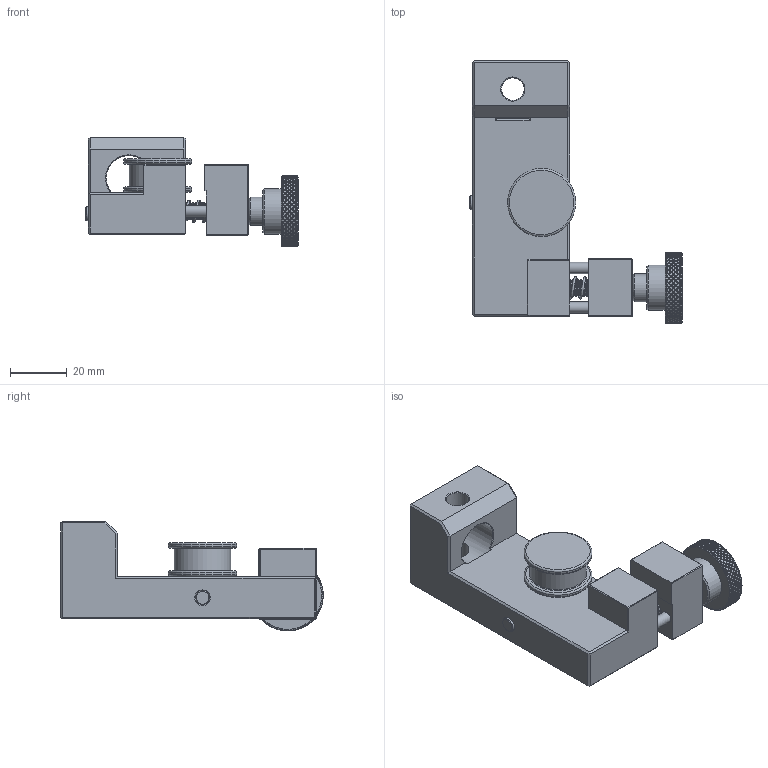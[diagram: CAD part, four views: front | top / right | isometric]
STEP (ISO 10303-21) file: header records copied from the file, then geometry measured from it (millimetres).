
FILE_DESCRIPTION((''),'2;1');
FILE_NAME('F:\SHARED FILES\DENE\3D MARKETING MODELS\WORK IN PROGRESS\NEW GRIPS 112117\G1103\G1103 MODEL.stp','2017-11-29T09:55:26',('mlampen'),(''),'Autodesk Inventor 2010','Autodesk Inventor 2010','');
FILE_SCHEMA(('AUTOMOTIVE_DESIGN { 1 0 10303 214 1 1 1 1 }'));
Length unit declared in the file: inch
Products named in the file (3): Assembly1; Part2; Part4
Assembly tree (2 placements, depth 2):
  Assembly1
    Part2
    Part4
Bounding box: 74.77 x 92.47 x 38.64 mm (x, y, z)
Volume: 71929 mm3; surface area: 22131.5 mm2
Topology: 2 solids, 2 shells, 2315 faces, 6129 edges, 4068 vertices
Faces by surface type: plane 1793, cylinder 420, cone 79, bspline 17, torus 6
Full cylindrical faces by diameter (mm): 3.988 x2, 4.064 x2, 4.953 x1, 5.004 x2, 5.188 x29, 5.969 x1, 6 x25, 8.026 x2, 9.144 x1, 9.957 x1, 12.014 x1, 15.9 x1, 16 x1, 19.126 x1, 19.939 x1, 24.003 x2, 24.5 x1
Entity records: 78872 total; most frequent: CARTESIAN_POINT 19943, DIRECTION 13320, ORIENTED_EDGE 11860, EDGE_CURVE 5930, AXIS2_PLACEMENT_3D 5628, VERTEX_POINT 4028, ELLIPSE 2903, EDGE_LOOP 2736
